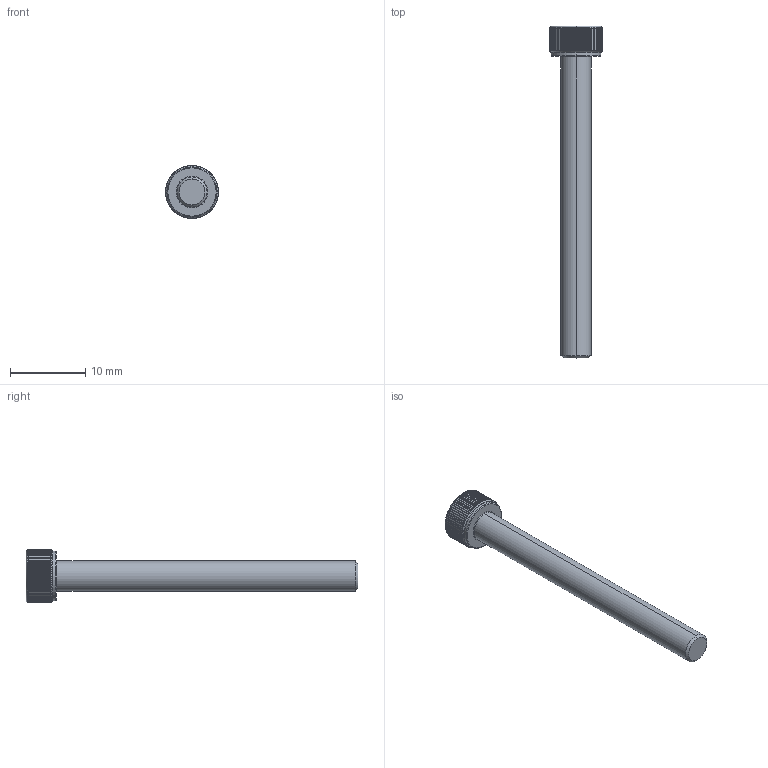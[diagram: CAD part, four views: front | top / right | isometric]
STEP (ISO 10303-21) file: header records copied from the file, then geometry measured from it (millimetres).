
FILE_DESCRIPTION (( 'STEP AP203' ), '1' );
FILE_NAME ('LGDT-304-M4x40.STEP', '2026-08-10T01:49:43', ( '' ), ( '' ), 'SwSTEP 2.0', 'SolidWorks 2020', '' );
FILE_SCHEMA (( 'CONFIG_CONTROL_DESIGN' ));
Length unit declared in the file: millimetre
Products named in the file (1): LGDT-304-M4x40
Bounding box: 7 x 44 x 7 mm (x, y, z)
Volume: 633.4 mm3; surface area: 683.7 mm2
Topology: 1 solids, 1 shells, 204 faces, 576 edges, 376 vertices
Faces by surface type: cylinder 175, cone 11, plane 10, torus 8
Entity records: 10019 total; most frequent: CARTESIAN_POINT 4860, ORIENTED_EDGE 1152, DIRECTION 988, EDGE_CURVE 576, AXIS2_PLACEMENT_3D 398, VERTEX_POINT 376, EDGE_LOOP 206, FACE_OUTER_BOUND 204
